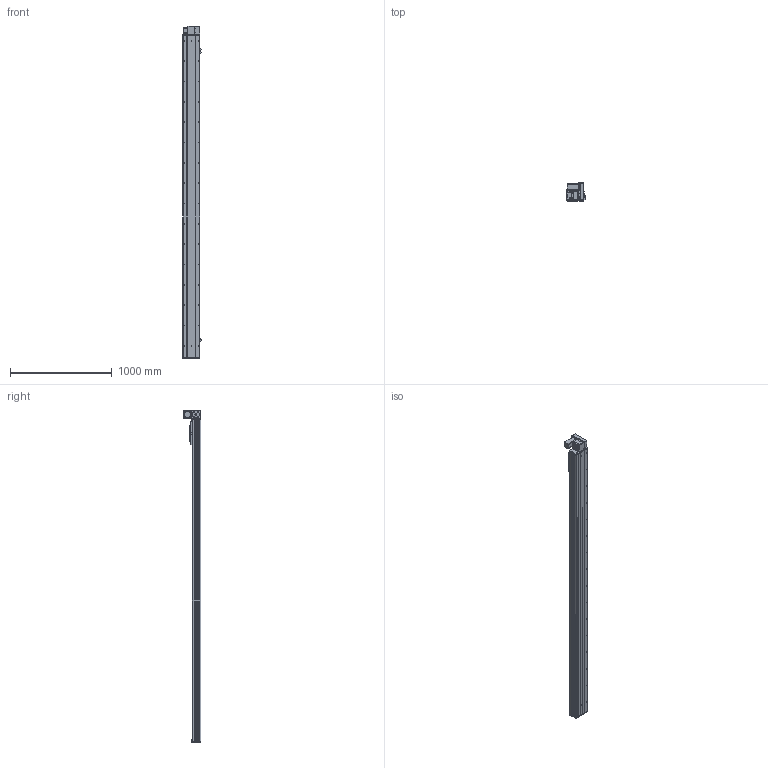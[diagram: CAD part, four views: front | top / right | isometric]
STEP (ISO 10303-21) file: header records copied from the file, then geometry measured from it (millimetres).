
FILE_DESCRIPTION (( 'STEP AP203' ), '1' );
FILE_NAME ('Y170CB-D105-S2850-UR-P400W.STEP', '2020-02-20T05:55:31', ( '微软用户' ), ( '微软中国' ), 'SwSTEP 2.0', 'SolidWorks 2017', '' );
FILE_SCHEMA (( 'CONFIG_CONTROL_DESIGN' ));
Length unit declared in the file: millimetre
Products named in the file (18): 17B-耜蚾蟀諉啣----; 70C--詩湍揤踡え-; 00B-俋欶BM--163; 70CB--耜裔; 70B喘謫眊----; 70C-雄赽釱-奻-; B-源倛裔啣; Y170CB-D105-S2850-UR-P400W; 0C--雄赽釱俋欶-170; 0B-萇儂楊擘啣; 70CB-詩湍--; san松下电机400不带刹车----; Y100-135俋离換覜ん--; 70CB-掛极-; Y170CB-陔俋离換覜結え---; --70CB --喘謫眊楊擘啣-; Y1埴倛裔; 70CB-耜裔啣-
Assembly tree (21 placements, depth 2):
  Y170CB-D105-S2850-UR-P400W
    B-源倛裔啣
    0B-萇儂楊擘啣
    san松下电机400不带刹车----
    70CB-掛极-
    --70CB --喘謫眊楊擘啣-
    70CB-耜裔啣-  x2
    70C--詩湍揤踡え-  x2
    70CB--耜裔
    70C-雄赽釱-奻-
    0C--雄赽釱俋欶-170
    70CB-詩湍--
    Y100-135俋离換覜ん--  x3
    Y170CB-陔俋离換覜結え---
    Y1埴倛裔
    17B-耜蚾蟀諉啣----
    00B-俋欶BM--163
    70B喘謫眊----
Bounding box: 183.5 x 174 x 3266 mm (x, y, z)
Volume: 13823970.1 mm3; surface area: 4995854.4 mm2
Topology: 21 solids, 21 shells, 1079 faces, 2909 edges, 1930 vertices
Faces by surface type: cylinder 593, plane 462, cone 24
Entity records: 34664 total; most frequent: CARTESIAN_POINT 6396, DIRECTION 5642, ORIENTED_EDGE 5300, EDGE_CURVE 2650, AXIS2_PLACEMENT_3D 2088, VERTEX_POINT 1760, LINE 1466, VECTOR 1466
